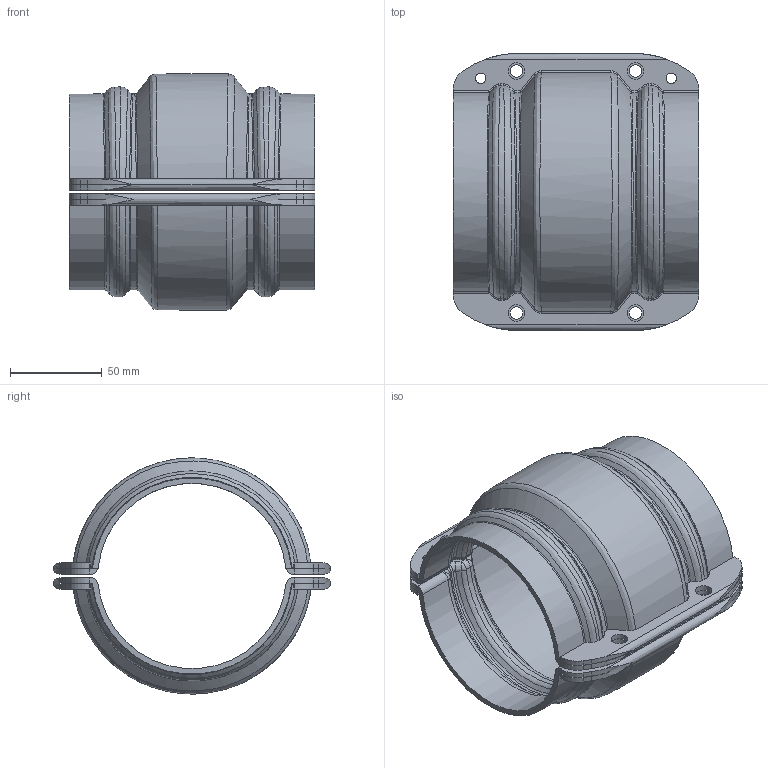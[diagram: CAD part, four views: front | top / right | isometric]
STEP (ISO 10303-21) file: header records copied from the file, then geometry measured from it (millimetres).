
FILE_DESCRIPTION(/* description */ (''),/* implementation_level */ '2;1');
FILE_NAME(/* name */ '8002_stp.stp',/* time_stamp */ '2025-06-20T11:29:19+08:00',/* author */ (''),/* organization */ (''),/* preprocessor_version */ 'ST-DEVELOPER v14',/* originating_system */ 'SIEMENS PLM Software NX 8.0',/* authorisation */ '');
FILE_SCHEMA (('AP203_CONFIGURATION_CONTROLLED_3D_DESIGN_OF_MECHANICAL_PARTS_AND_ASSEMBLIES_MIM_LF { 1 0 10303 403 2 1 2}'));
Length unit declared in the file: millimetre
Products named in the file (1): Admi0BECFFFE4xn2
Bounding box: 134 x 151 x 128.75 mm (x, y, z)
Volume: 195984.2 mm3; surface area: 140953.8 mm2
Topology: 6 solids, 6 shells, 540 faces, 1500 edges, 924 vertices
Faces by surface type: cylinder 160, bspline 156, plane 80, sphere 60, extrusion 48, cone 24, torus 12
Full cylindrical faces by diameter (mm): 5.7 x8, 6.8 x8, 9 x8
Entity records: 27059 total; most frequent: CARTESIAN_POINT 14989, ORIENTED_EDGE 2848, DIRECTION 1962, EDGE_CURVE 1424, VERTEX_POINT 920, AXIS2_PLACEMENT_3D 773, B_SPLINE_CURVE_WITH_KNOTS 646, EDGE_LOOP 612
